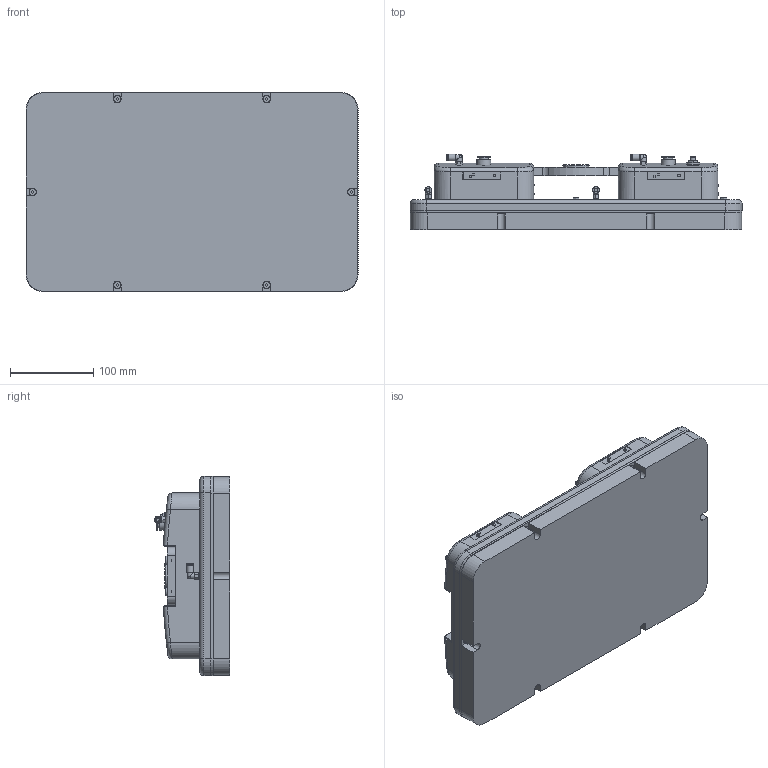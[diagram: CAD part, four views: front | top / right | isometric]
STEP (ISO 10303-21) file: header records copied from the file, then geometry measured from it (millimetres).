
FILE_DESCRIPTION(/* description */ ('STEP AP242','CAx-IF Rec.Pracs.---Representation and Presentation of Product Manufacturing Information (PMI)---4.0---2014-10-13','CAx-IF Rec.Pracs.---3D Tessellated Geometry---0.4---2014-09-14','2;1'),/* implementation_level */ '2;1');
FILE_NAME(/* name */ 'ZGS011PK-400240BS6-C1C10()',/* time_stamp */ '2026-02-04T23:31:25+01:00',/* author */ ('License CC BY-ND 4.0'),/* organization */ ('CADENAS'),/* preprocessor_version */ 'ST-DEVELOPER v20',/* originating_system */ 'PARTsolutions',/* authorisation */ ' ');
FILE_SCHEMA (('AP242_MANAGED_MODEL_BASED_3D_ENGINEERING_MIM_LF { 1 0 10303 442 1 1 4 }'));
Length unit declared in the file: millimetre
Products named in the file (3): ZGS011PK-400240BS6-C1C10(); ZGSK-400240A-1C10()_BODY; ZGS-1_FLANGE
Assembly tree (2 placements, depth 2):
  ZGS011PK-400240BS6-C1C10()
    ZGSK-400240A-1C10()_BODY
    ZGS-1_FLANGE
Bounding box: 400 x 90.9 x 240 mm (x, y, z)
Volume: 5389535.8 mm3; surface area: 355420.7 mm2
Topology: 2 solids, 2 shells, 782 faces, 1856 edges, 1206 vertices
Faces by surface type: plane 482, cylinder 215, cone 53, sphere 12, torus 12, bspline 8
Full cylindrical faces by diameter (mm): 0.6 x8, 4 x4, 4.8 x4, 4.917 x8, 5 x5, 5.94 x1, 6 x8, 6.6 x4, 6.9 x3, 7 x9, 7.7 x4, 8.2 x4, 8.4 x2, 8.56 x6, 9 x6, 10 x2, 10.22 x8, 11.1 x2, 13 x8, 15.5 x9, 16 x1, 16.5 x2, 17 x2, 31.5 x1
Entity records: 21950 total; most frequent: CARTESIAN_POINT 4313, DIRECTION 3676, ORIENTED_EDGE 3338, EDGE_CURVE 1669, AXIS2_PLACEMENT_3D 1331, VERTEX_POINT 1165, FACE_BOUND 1076, EDGE_LOOP 1068
